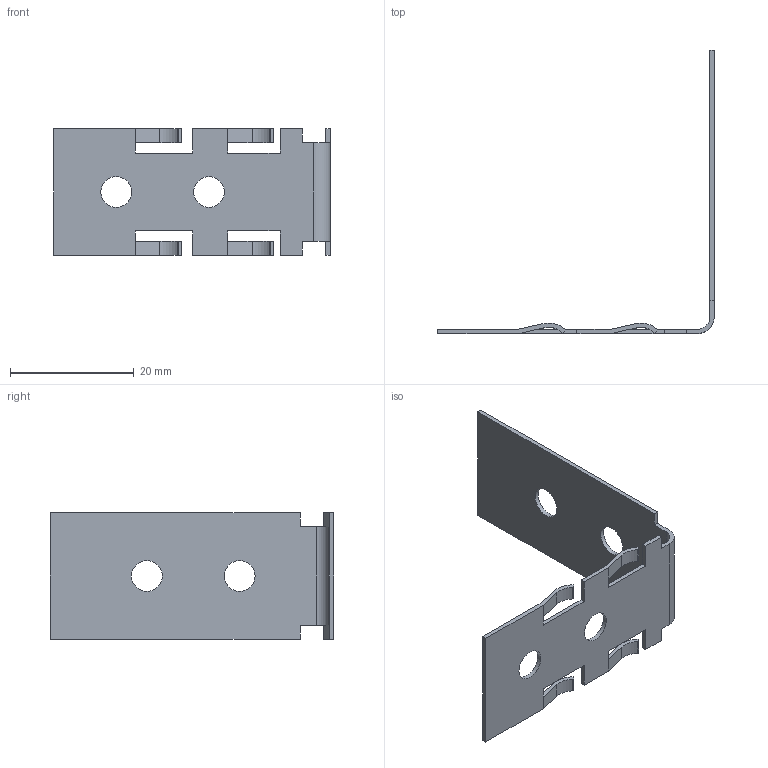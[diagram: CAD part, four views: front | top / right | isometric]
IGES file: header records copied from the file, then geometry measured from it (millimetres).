
Start section: Data from Parasolid IGES Translator 15.0.47, Copyright(c) 2006 Siemens P LM Software. All Rights Reserved.
Global section: file name: 9210142.igs; native system:  By UGS Corp.; preprocessor: XPlus GENERIC/IGES 3.0; author: Noname; organization: Noname; date: 20160311.190046; units: millimetre
Bounding box: 44.7 x 45.8 x 20.5 mm (x, y, z)
Surface area: 3537 mm2 (no closed solid volume)
Topology: 0 solids, 0 shells, 70 faces, 400 edges, 394 vertices
Faces by surface type: extrusion 56, revolution 14
